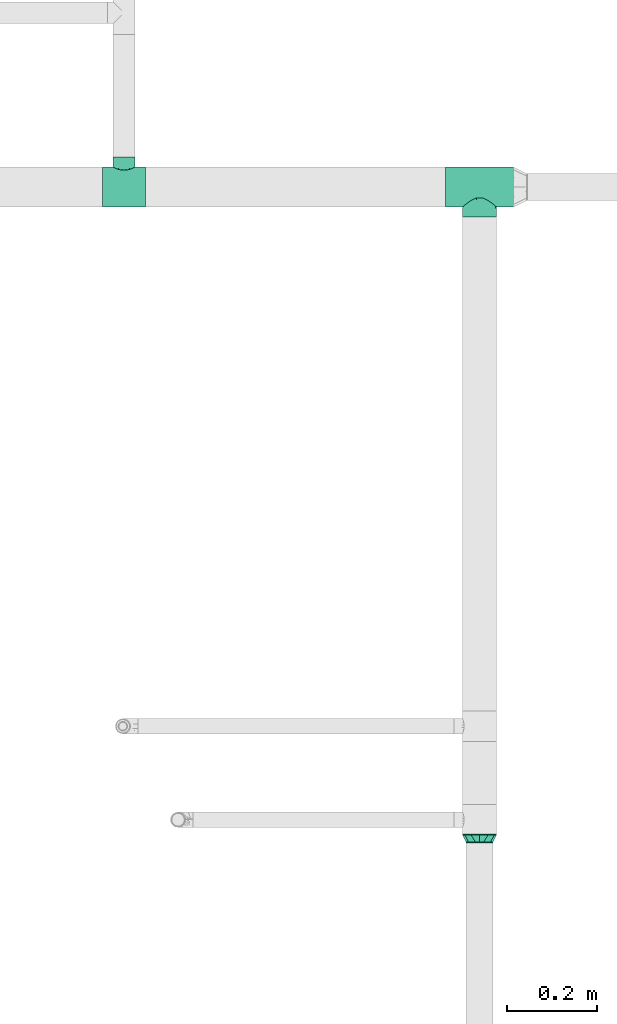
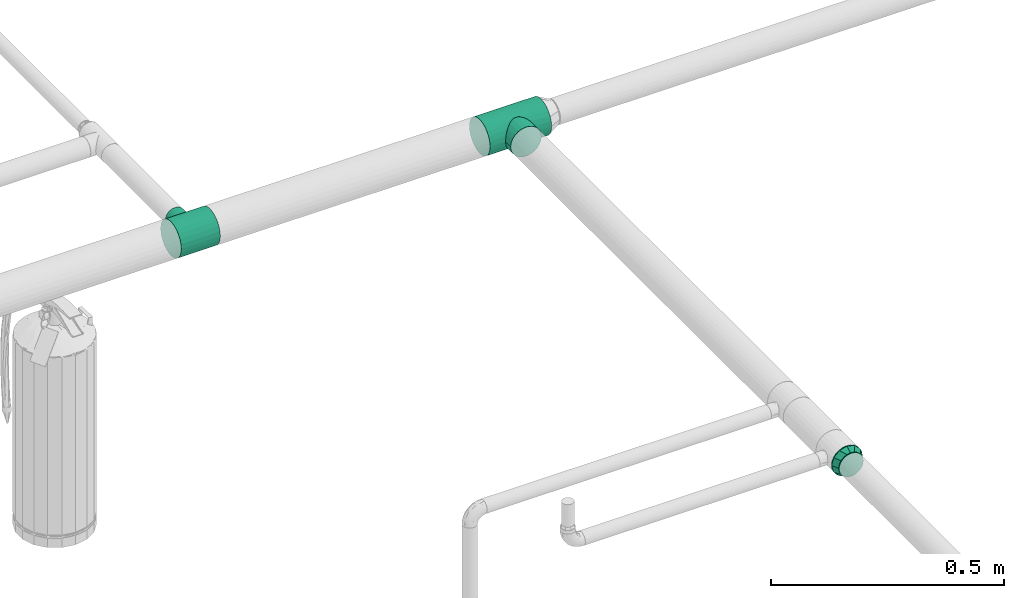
# One storey, part 41 of 43: 3 flow fittings.
"""IFC2X3 building model written with IfcOpenShell, lengths in millimetres."""

from ifc_helpers import new_model, entity, si_unit, converted_unit, derived_unit, direction, frame, origin_with_axes, place, context, subcontext, project, spatial, open_shell, surface_model, source, transform, mapped, type_object, element, save


model = new_model("IFC2X3")

# Units and contexts
model_context = context("Model", 3, precision=0.01, world=frame((0.0, 4.29681676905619e-09, 0.0)), true_north=direction((4.01073788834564e-13, 1.0)))
plan_context = context("Plan", 3, precision=0.01, world=frame((0.0, 4.29681676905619e-09, 0.0)), true_north=direction((4.01073788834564e-13, 1.0)))
body_context = subcontext(model_context, "Body", "Model", "MODEL_VIEW")
ifc_project = project(units=[converted_unit("PLANEANGLEUNIT", "DEGREE", entity("IfcPositiveLengthMeasure", 0.0174532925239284), si_unit("PLANEANGLEUNIT", "RADIAN"), dimensions=[0, 0, 0, 0, 0, 0, 0]), si_unit("AREAUNIT", "SQUARE_METRE"), si_unit("LENGTHUNIT", "METRE", prefix="MILLI"), si_unit("MASSUNIT", "GRAM", prefix="KILO"), si_unit("POWERUNIT", "WATT"), si_unit("PRESSUREUNIT", "PASCAL"), si_unit("FORCEUNIT", "NEWTON", prefix="KILO"), si_unit("ELECTRICVOLTAGEUNIT", "VOLT"), si_unit("ELECTRICCURRENTUNIT", "AMPERE"), si_unit("THERMODYNAMICTEMPERATUREUNIT", "DEGREE_CELSIUS"), si_unit("TIMEUNIT", "SECOND"), si_unit("VOLUMEUNIT", "CUBIC_METRE"), derived_unit("LINEARVELOCITYUNIT", [(si_unit("LENGTHUNIT", "METRE"), 1), (si_unit("TIMEUNIT", "SECOND"), -1)]), derived_unit("VOLUMETRICFLOWRATEUNIT", [(si_unit("VOLUMEUNIT", "CUBIC_METRE"), 1), (si_unit("TIMEUNIT", "SECOND"), -1)]), derived_unit("THERMALTRANSMITTANCEUNIT", [(si_unit("POWERUNIT", "WATT"), 1), (si_unit("THERMODYNAMICTEMPERATUREUNIT", "KELVIN"), -1), (si_unit("AREAUNIT", "SQUARE_METRE"), -1)]), derived_unit("SOUNDPRESSUREUNIT", [(si_unit("PRESSUREUNIT", "PASCAL"), 1)])], contexts=[model_context, plan_context])

# Site, building, storey
site_placement = place(None, frame((0.0, -4.29681676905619e-09, 0.0), z_axis=(0.0, 0.0, 1.0), x_axis=(1.0, 0.0, 0.0)))
site = spatial("IfcSite", under=ifc_project, at=site_placement, CompositionType="ELEMENT")
building_placement = place(site_placement, frame((0.0, 4.29681676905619e-09, 0.0), z_axis=(0.0, 0.0, 1.0), x_axis=(1.0, 0.0, 0.0)))
building = spatial("IfcBuilding", under=site, at=building_placement, Name="mc-building", CompositionType="ELEMENT")
storey_placement = place(building_placement, frame((0.0, 0.0, 210900.0), z_axis=(0.0, 0.0, 1.0), x_axis=(1.0, 0.0, 0.0)))
storey = spatial("IfcBuildingStorey", under=building, at=storey_placement, Name="Nivå F", CompositionType="ELEMENT", Elevation=210900.0)

# Flow fittings
pipe_fitting_type_1 = type_object("IfcPipeFittingType", Name="magi_pipe_fe_tee_centric_90_NOR", PredefinedType="JUNCTION")
shared_shape_1 = source(origin_with_axes(), body_context, "Body", "SurfaceModel", [
    surface_model("IfcShellBasedSurfaceModel", [(-48.4, 11.51745, -42.9837), (-48.4, 0.0, -44.5), (-48.4, 31.46625, -31.46625), (-48.4, 22.25, -38.53813), (-48.4, 38.53813, -22.25), (-48.4, -31.46625, -31.46625), (-48.4, 44.5, 0.0), (-48.4, -22.25, -38.53813), (-48.4, -11.51745, -42.9837), (-48.4, -42.9837, -11.51745), (-48.4, -44.5, 0.0), (-48.4, -38.53813, -22.25), (-48.4, 22.25, 38.53813), (-48.4, 42.9837, -11.51745), (-48.4, 42.9837, 11.51745), (-48.4, 38.53813, 22.25), (-48.4, 31.46625, 31.46625), (-48.4, -22.25, 38.53813), (-48.4, 11.51745, 42.9837), (-48.4, 0.0, 44.5), (-48.4, -31.46625, 31.46625), (-48.4, -38.53813, 22.25), (-48.4, -42.9837, 11.51745), (-48.4, -11.51745, 42.9837), (48.4, 31.46625, -31.46625), (48.4, 0.0, -44.5), (48.4, 11.51745, -42.9837), (48.4, 22.25, -38.53813), (48.4, -31.46625, -31.46625), (48.4, 38.53813, -22.25), (48.4, 44.5, 0.0), (48.4, -11.51745, -42.9837), (48.4, -22.25, -38.53813), (48.4, -38.53813, -22.25), (48.4, -44.5, 0.0), (48.4, -42.9837, -11.51745), (48.4, -22.25, 38.53813), (48.4, 42.9837, -11.51745), (48.4, 31.46625, 31.46625), (48.4, 42.9837, 11.51745), (48.4, 38.53813, 22.25), (48.4, 22.25, 38.53813), (48.4, 0.0, 44.5), (48.4, 11.51745, 42.9837), (48.4, -38.53813, 22.25), (48.4, -31.46625, 31.46625), (48.4, -42.9837, 11.51745), (48.4, -11.51745, 42.9837), (48.4, -43.74185, 5.75872), (22.69411, -43.69934, 8.40342), (24.2, -44.5, 0.0), (18.49124, -41.67177, 15.61134), (4.27905, -37.58883, 23.81868), (48.4, -40.76092, 16.88372), (12.17996, -39.28055, 20.91144), (-12.18212, -39.28122, 20.91019), (-48.4, -40.76092, 16.88372), (-18.4972, -41.67441, 15.60429), (-22.69487, -43.69974, 8.40135), (-48.4, -43.74185, 5.75872), (-24.2, -44.5, 0.0), (-4.28605, -37.58963, 23.81743), (12.17996, -39.28055, -20.91144), (48.4, -40.76092, -16.88372), (18.49124, -41.67177, -15.61134), (4.27905, -37.58883, -23.81868), (-48.4, -43.74185, -5.75872), (-22.69487, -43.69974, -8.40135), (48.4, -43.74185, -5.75872), (22.69411, -43.69934, -8.40342), (-4.28605, -37.58963, -23.81743), (-12.18212, -39.28122, -20.91019), (-18.4972, -41.67441, -15.60429), (-48.4, -40.76092, -16.88372), (0.0, -66.75, -24.2), (6.26342, -66.75, -23.37541), (12.1, -66.75, -20.95781), (12.1, -66.75, 20.95781), (17.11198, -66.75, -17.11198), (20.95781, -66.75, -12.1), (23.37541, -66.75, -6.26342), (-12.1, -66.75, -20.95781), (-20.95781, -66.75, -12.1), (-17.11198, -66.75, -17.11198), (-6.26342, -66.75, -23.37541), (-23.37541, -66.75, -6.26342), (-24.2, -66.75, 0.0), (24.2, -66.75, 0.0), (23.37541, -66.75, 6.26342), (20.95781, -66.75, 12.1), (-23.37541, -66.75, 6.26342), (17.11198, -66.75, 17.11198), (6.26342, -66.75, 23.37541), (-17.11198, -66.75, 17.11198), (-20.95781, -66.75, 12.1), (-12.1, -66.75, 20.95781), (0.0, -66.75, 24.2), (-6.26342, -66.75, 23.37541), (-23.44744, -44.09987, 4.20067), (23.44705, -44.09967, 4.20171), (-8.23409, -38.43542, 22.36381), (-0.0035, -37.58923, 23.81805), (8.22951, -38.43469, 22.36506), (23.44705, -44.09967, -4.20171), (-23.44744, -44.09987, -4.20067), (8.22951, -38.43469, -22.36506), (-0.0035, -37.58923, -23.81805), (-8.23409, -38.43542, -22.36381)], [open_shell([[[0, 1, 2]], [[3, 0, 2]], [[4, 2, 5]], [[1, 5, 2]], [[5, 6, 4]], [[7, 5, 8]], [[5, 1, 8]], [[9, 10, 11]], [[5, 11, 10]], [[10, 12, 5]], [[6, 13, 4]], [[14, 6, 12]], [[15, 14, 16]], [[12, 10, 17]], [[16, 14, 12]], [[18, 12, 19]], [[20, 17, 21]], [[10, 22, 21]], [[23, 19, 17]], [[21, 17, 10]], [[17, 19, 12]], [[6, 5, 12]], [[24, 25, 26]], [[24, 26, 27]], [[28, 24, 29]], [[24, 28, 25]], [[29, 30, 28]], [[31, 28, 32]], [[31, 25, 28]], [[33, 34, 35]], [[34, 33, 28]], [[28, 36, 34]], [[29, 37, 30]], [[38, 30, 39]], [[38, 39, 40]], [[36, 28, 41]], [[41, 30, 38]], [[42, 41, 43]], [[44, 36, 45]], [[44, 46, 34]], [[41, 47, 36]], [[34, 36, 44]], [[42, 47, 41]], [[41, 28, 30]], [[48, 46, 49]], [[50, 34, 48]], [[46, 51, 49]], [[44, 45, 52]], [[50, 48, 49]], [[51, 53, 54]], [[52, 54, 44]], [[45, 20, 52]], [[54, 53, 44]], [[55, 56, 57]], [[58, 59, 60]], [[10, 60, 59]], [[58, 57, 22]], [[55, 61, 21]], [[51, 46, 53]], [[21, 56, 55]], [[21, 61, 20]], [[57, 56, 22]], [[61, 52, 20]], [[58, 22, 59]], [[45, 17, 20]], [[19, 47, 42]], [[23, 36, 47]], [[18, 42, 43]], [[40, 39, 14]], [[16, 41, 38]], [[15, 38, 40]], [[43, 41, 12]], [[6, 39, 30]], [[17, 36, 23]], [[23, 47, 19]], [[18, 19, 42]], [[43, 12, 18]], [[12, 41, 16]], [[15, 16, 38]], [[14, 15, 40]], [[39, 6, 14]], [[36, 17, 45]], [[6, 30, 37]], [[29, 24, 2]], [[13, 37, 29]], [[25, 31, 8]], [[0, 27, 26]], [[1, 26, 25]], [[27, 3, 24]], [[7, 31, 32]], [[2, 4, 29]], [[6, 37, 13]], [[62, 63, 64]], [[13, 29, 4]], [[2, 24, 3]], [[3, 27, 0]], [[1, 0, 26]], [[8, 1, 25]], [[31, 7, 8]], [[32, 5, 7]], [[28, 33, 65]], [[60, 66, 67]], [[62, 65, 33]], [[63, 62, 33]], [[28, 65, 5]], [[34, 50, 68]], [[69, 64, 35]], [[69, 68, 50]], [[69, 35, 68]], [[35, 64, 63]], [[70, 71, 11]], [[72, 9, 73]], [[11, 5, 70]], [[72, 73, 71]], [[70, 5, 65]], [[72, 67, 9]], [[67, 66, 9]], [[66, 60, 10]], [[73, 11, 71]], [[28, 5, 32]], [[74, 75, 76]], [[77, 74, 76]], [[78, 79, 80]], [[78, 80, 76]], [[77, 81, 74]], [[81, 82, 83]], [[81, 84, 74]], [[81, 85, 82]], [[85, 81, 86]], [[81, 77, 86]], [[87, 76, 80]], [[87, 88, 89]], [[87, 89, 77]], [[77, 90, 86]], [[77, 89, 91]], [[90, 77, 92]], [[90, 93, 94]], [[90, 92, 93]], [[95, 96, 97]], [[96, 95, 93]], [[92, 96, 93]], [[77, 76, 87]], [[90, 98, 86]], [[57, 94, 93]], [[99, 87, 50]], [[90, 94, 58]], [[93, 95, 55]], [[98, 60, 86]], [[58, 94, 57]], [[97, 61, 100]], [[55, 57, 93]], [[96, 52, 101]], [[77, 102, 92]], [[100, 55, 95]], [[100, 95, 97]], [[90, 58, 98]], [[54, 77, 91]], [[77, 54, 102]], [[49, 89, 88]], [[91, 89, 51]], [[96, 61, 97]], [[52, 96, 92]], [[102, 52, 92]], [[101, 61, 96]], [[54, 91, 51]], [[51, 89, 49]], [[87, 99, 88]], [[99, 49, 88]], [[80, 103, 87]], [[64, 79, 78]], [[104, 86, 60]], [[80, 79, 69]], [[78, 76, 62]], [[103, 50, 87]], [[69, 79, 64]], [[75, 65, 105]], [[62, 64, 78]], [[74, 70, 106]], [[81, 107, 84]], [[105, 62, 76]], [[107, 81, 71]], [[80, 69, 103]], [[105, 76, 75]], [[83, 71, 81]], [[67, 82, 85]], [[83, 82, 72]], [[104, 67, 85]], [[70, 74, 84]], [[107, 70, 84]], [[106, 65, 74]], [[71, 83, 72]], [[72, 82, 67]], [[86, 104, 85]], [[74, 65, 75]]])]),
])
flow_fitting_1_placement = place(storey_placement, frame((606986.48955, 697236.30413, 2660.0), z_axis=(0.0, 0.0, 1.0), x_axis=(-1.0, 0.0, 0.0)))
element("IfcFlowFitting", 1, at=flow_fitting_1_placement, inside=storey, type_object=pipe_fitting_type_1, Name="magi_pipe_fe_tee_centric_90_NOR", context=body_context, shape_type="MappedRepresentation", body=[
    mapped(shared_shape_1, transform((0.0, 0.0, 0.0), scale=1.0)),
])
shared_shape_2 = source(origin_with_axes(), body_context, "Body", "SurfaceModel", [
    surface_model("IfcShellBasedSurfaceModel", [(-76.2, 11.51745, -42.9837), (-76.2, 0.0, -44.5), (-76.2, 31.46625, -31.46625), (-76.2, 22.25, -38.53813), (-76.2, 38.53813, -22.25), (-76.2, 22.25, 38.53813), (-76.2, -31.46625, -31.46625), (-76.2, -44.5, 0.0), (-76.2, -22.25, -38.53813), (-76.2, -11.51745, -42.9837), (-76.2, -42.9837, -11.51745), (-76.2, -38.53813, -22.25), (-76.2, 42.9837, -11.51745), (-76.2, 42.9837, 11.51745), (-76.2, 44.5, 0.0), (-76.2, 38.53813, 22.25), (-76.2, 31.46625, 31.46625), (-76.2, -22.25, 38.53813), (-76.2, 11.51745, 42.9837), (-76.2, 0.0, 44.5), (-76.2, -31.46625, 31.46625), (-76.2, -38.53813, 22.25), (-76.2, -42.9837, 11.51745), (-76.2, -11.51745, 42.9837), (76.2, 31.46625, -31.46625), (76.2, 0.0, -44.5), (76.2, 11.51745, -42.9837), (76.2, 22.25, -38.53813), (76.2, -31.46625, -31.46625), (76.2, 38.53813, -22.25), (76.2, 44.5, 0.0), (76.2, -11.51745, -42.9837), (76.2, -22.25, -38.53813), (76.2, -38.53813, -22.25), (76.2, -44.5, 0.0), (76.2, -42.9837, -11.51745), (76.2, -22.25, 38.53813), (76.2, 42.9837, -11.51745), (76.2, 31.46625, 31.46625), (76.2, 42.9837, 11.51745), (76.2, 38.53813, 22.25), (76.2, 22.25, 38.53813), (76.2, 0.0, 44.5), (76.2, 11.51745, 42.9837), (76.2, -38.53813, 22.25), (76.2, -31.46625, 31.46625), (76.2, -42.9837, 11.51745), (76.2, -11.51745, 42.9837), (36.81168, -43.40744, 6.8866), (76.2, -43.74185, 5.75872), (35.52336, -42.31488, 13.7732), (76.2, -40.76092, 16.88372), (32.13743, -39.56456, 19.38621), (38.1, -44.5, 0.0), (19.15496, -29.92579, 32.93474), (76.2, -35.00219, 26.85813), (-76.2, -40.76092, 16.88372), (-35.52746, -42.31832, 13.76261), (-32.13988, -39.5666, 19.38046), (28.7515, -36.81425, 24.99922), (7.00805, -24.03649, 37.44993), (-19.15174, -29.92373, 32.93662), (-76.2, -35.00219, 26.85813), (-28.7523, -36.81487, 24.9983), (-36.81373, -43.40916, 6.8813), (-76.2, -43.74185, 5.75872), (-38.1, -44.5, 0.0), (-7.03094, -24.04317, 37.44564), (-35.52746, -42.31832, -13.76261), (-36.81373, -43.40916, -6.8813), (7.00805, -24.03649, -37.44993), (76.2, -40.76092, -16.88372), (35.52336, -42.31488, -13.7732), (32.13743, -39.56456, -19.38621), (36.81168, -43.40744, -6.8866), (76.2, -43.74185, -5.75872), (-7.03094, -24.04317, -37.44564), (76.2, -35.00219, -26.85813), (19.15496, -29.92579, -32.93474), (28.7515, -36.81425, -24.99922), (-76.2, -40.76092, -16.88372), (-76.2, -43.74185, -5.75872), (-19.15174, -29.92373, -32.93662), (-28.7523, -36.81487, -24.9983), (-76.2, -35.00219, -26.85813), (-32.13988, -39.5666, -19.38046), (0.0, -66.75, -38.1), (9.86101, -66.75, -36.80177), (19.05, -66.75, -32.99557), (26.94077, -66.75, -26.94077), (32.99557, -66.75, -19.05), (36.80177, -66.75, -9.86101), (0.0, -66.75, 38.1), (-26.94077, -66.75, -26.94077), (-9.86101, -66.75, -36.80177), (-19.05, -66.75, -32.99557), (-36.80177, -66.75, -9.86101), (-32.99557, -66.75, -19.05), (-32.99557, -66.75, 19.05), (-36.80177, -66.75, 9.86101), (-38.1, -66.75, 0.0), (19.05, -66.75, 32.99557), (36.80177, -66.75, 9.86101), (32.99557, -66.75, 19.05), (26.94077, -66.75, 26.94077), (9.86101, -66.75, 36.80177), (-26.94077, -66.75, 26.94077), (-19.05, -66.75, 32.99557), (-9.86101, -66.75, 36.80177), (38.1, -66.75, 0.0), (-0.01144, -24.03983, 37.44778), (-0.01144, -24.03983, -37.44778)], [open_shell([[[0, 1, 2]], [[3, 0, 2]], [[4, 2, 5]], [[6, 2, 1]], [[2, 7, 5]], [[8, 6, 9]], [[6, 1, 9]], [[10, 7, 11]], [[6, 11, 7]], [[6, 7, 2]], [[12, 4, 5]], [[13, 14, 5]], [[15, 13, 16]], [[5, 7, 17]], [[16, 13, 5]], [[18, 5, 19]], [[20, 17, 21]], [[7, 22, 21]], [[17, 7, 21]], [[17, 23, 5]], [[23, 19, 5]], [[14, 12, 5]], [[24, 25, 26]], [[24, 26, 27]], [[28, 24, 29]], [[24, 28, 25]], [[29, 30, 28]], [[31, 28, 32]], [[31, 25, 28]], [[33, 34, 35]], [[34, 33, 28]], [[28, 36, 34]], [[29, 37, 30]], [[38, 30, 39]], [[38, 39, 40]], [[36, 28, 41]], [[41, 30, 38]], [[42, 41, 43]], [[44, 36, 45]], [[44, 46, 34]], [[36, 42, 47]], [[34, 36, 44]], [[41, 42, 36]], [[41, 28, 30]], [[46, 48, 49]], [[50, 51, 52]], [[34, 49, 53]], [[44, 52, 51]], [[45, 54, 55]], [[56, 57, 58]], [[59, 55, 54]], [[36, 60, 54]], [[44, 59, 52]], [[54, 45, 36]], [[50, 46, 51]], [[61, 62, 63]], [[64, 57, 22]], [[59, 44, 55]], [[64, 22, 65]], [[66, 64, 65]], [[57, 56, 22]], [[53, 49, 48]], [[20, 61, 17]], [[66, 65, 7]], [[21, 63, 62]], [[56, 58, 21]], [[62, 61, 20]], [[61, 67, 17]], [[46, 50, 48]], [[21, 58, 63]], [[60, 23, 67]], [[19, 47, 42]], [[60, 47, 23]], [[18, 42, 43]], [[40, 39, 13]], [[16, 41, 38]], [[15, 38, 40]], [[43, 41, 5]], [[14, 39, 30]], [[67, 23, 17]], [[23, 47, 19]], [[18, 19, 42]], [[43, 5, 18]], [[5, 41, 16]], [[15, 16, 38]], [[13, 15, 40]], [[39, 14, 13]], [[60, 36, 47]], [[37, 29, 4]], [[10, 68, 69]], [[29, 24, 2]], [[30, 37, 14]], [[25, 31, 9]], [[0, 27, 26]], [[1, 26, 25]], [[24, 27, 3]], [[31, 70, 9]], [[71, 72, 73]], [[4, 12, 37]], [[74, 35, 75]], [[29, 2, 4]], [[12, 14, 37]], [[24, 3, 2]], [[3, 27, 0]], [[1, 0, 26]], [[9, 1, 25]], [[9, 76, 8]], [[31, 32, 70]], [[77, 78, 28]], [[79, 77, 33]], [[68, 10, 80]], [[70, 32, 78]], [[33, 73, 79]], [[78, 32, 28]], [[53, 74, 75]], [[35, 72, 71]], [[72, 35, 74]], [[53, 75, 34]], [[73, 33, 71]], [[66, 81, 69]], [[82, 6, 8]], [[83, 11, 84]], [[82, 84, 6]], [[84, 82, 83]], [[78, 77, 79]], [[82, 8, 76]], [[7, 81, 66]], [[11, 85, 80]], [[11, 83, 85]], [[69, 81, 10]], [[80, 85, 68]], [[70, 76, 9]], [[86, 87, 88]], [[86, 88, 89]], [[89, 90, 91]], [[89, 91, 86]], [[92, 93, 86]], [[94, 93, 95]], [[94, 86, 93]], [[93, 96, 97]], [[93, 98, 96]], [[96, 99, 100]], [[101, 86, 91]], [[102, 103, 91]], [[91, 103, 101]], [[101, 92, 86]], [[101, 103, 104]], [[92, 101, 105]], [[98, 92, 106]], [[99, 96, 98]], [[107, 92, 108]], [[92, 107, 106]], [[92, 98, 93]], [[102, 91, 109]], [[99, 64, 100]], [[48, 109, 53]], [[48, 50, 102]], [[99, 57, 64]], [[57, 99, 98]], [[63, 98, 106]], [[64, 66, 100]], [[57, 98, 63]], [[107, 108, 61]], [[61, 63, 106]], [[61, 108, 67]], [[61, 106, 107]], [[92, 60, 110]], [[54, 105, 101]], [[104, 54, 101]], [[50, 103, 102]], [[104, 103, 59]], [[92, 67, 108]], [[60, 92, 105]], [[105, 54, 60]], [[110, 67, 92]], [[54, 104, 59]], [[59, 103, 50]], [[109, 48, 102]], [[91, 74, 109]], [[79, 90, 89]], [[91, 72, 74]], [[91, 90, 72]], [[89, 88, 78]], [[74, 53, 109]], [[72, 90, 79]], [[78, 87, 70]], [[78, 79, 89]], [[86, 76, 111]], [[78, 88, 87]], [[69, 68, 96]], [[82, 94, 95]], [[93, 82, 95]], [[68, 97, 96]], [[93, 97, 83]], [[86, 70, 87]], [[76, 86, 94]], [[94, 82, 76]], [[111, 70, 86]], [[82, 93, 83]], [[83, 97, 68]], [[100, 69, 96]], [[69, 100, 66]]])]),
])
flow_fitting_2_placement = place(storey_placement, frame((607779.57252, 697236.30413, 2660.0), z_axis=(0.0, 0.0, -1.0), x_axis=(-1.0, 0.0, 0.0)))
element("IfcFlowFitting", 2, at=flow_fitting_2_placement, inside=storey, type_object=pipe_fitting_type_1, Name="magi_pipe_fe_tee_centric_90_NOR", context=body_context, shape_type="MappedRepresentation", body=[
    mapped(shared_shape_2, transform((0.0, 0.0, 0.0), scale=1.0)),
])
pipe_fitting_type_2 = type_object("IfcPipeFittingType", Name="magi_pipe_fe_reducer_centric_short_NOR", PredefinedType="TRANSITION")
shared_shape_3 = source(origin_with_axes(), body_context, "Body", "SurfaceModel", [
    surface_model("IfcShellBasedSurfaceModel", [(-2.0, 9.86101, 36.80177), (-2.0, -38.1, 0.0), (-2.0, 0.0, 38.1), (-2.0, 26.94077, 26.94077), (-2.0, 19.05, 32.99557), (-2.0, 32.99557, 19.05), (-2.0, 36.80177, 9.86101), (-2.0, -9.86101, 36.80177), (-2.0, -26.94077, 26.94077), (-2.0, -19.05, 32.99557), (-2.0, -32.99557, 19.05), (-2.0, -36.80177, 9.86101), (-2.0, 36.80177, -9.86101), (-2.0, -32.99557, -19.05), (-2.0, 9.86101, -36.80177), (-2.0, 32.99557, -19.05), (-2.0, 26.94077, -26.94077), (-2.0, 19.05, -32.99557), (-2.0, -26.94077, -26.94077), (-2.0, -36.80177, -9.86101), (-2.0, -19.05, -32.99557), (-2.0, 0.0, -38.1), (-2.0, -9.86101, -36.80177), (-2.0, 38.1, 0.0), (0.0, 9.86101, -36.80177), (0.0, 19.05, -32.99557), (0.0, 26.94077, -26.94077), (0.0, 36.80177, -9.86101), (0.0, -26.94077, -26.94077), (0.0, 32.99557, -19.05), (0.0, -38.1, 0.0), (0.0, 0.0, -38.1), (0.0, -19.05, -32.99557), (0.0, -9.86101, -36.80177), (0.0, -32.99557, -19.05), (0.0, -36.80177, -9.86101), (0.0, 38.1, 0.0), (0.0, 36.80177, 9.86101), (0.0, 32.99557, 19.05), (0.0, 26.94077, 26.94077), (0.0, 0.0, 38.1), (0.0, 9.86101, 36.80177), (0.0, 19.05, 32.99557), (0.0, -9.86101, 36.80177), (0.0, -32.99557, 19.05), (0.0, -36.80177, 9.86101), (0.0, -26.94077, 26.94077), (0.0, -19.05, 32.99557), (15.8, 9.33231, 28.72191), (15.8, 30.2, 0.0), (15.8, 24.43231, 17.75111), (15.8, -24.43231, 17.75111), (15.8, -9.33231, -28.72191), (15.8, 9.33231, -28.72191), (15.8, 24.43231, -17.75111), (15.8, -24.43231, -17.75111), (15.8, -27.31616, -8.87556), (15.8, -16.88231, -23.23651), (0.0, -26.02278, -26.02278), (15.8, 16.88231, -23.23651), (0.0, -9.525, -35.54778), (15.8, 0.0, -28.72191), (0.0, 9.525, -35.54778), (0.0, 26.02278, -26.02278), (15.8, 27.31616, -8.87556), (15.8, 27.31616, 8.87556), (15.8, 16.88231, 23.23651), (0.0, 26.02278, 26.02278), (15.8, -16.88231, 23.23651), (15.8, -9.33231, 28.72191), (0.0, 9.525, 35.54778), (15.8, 0.0, 28.72191), (0.0, -9.525, 35.54778), (0.0, -26.02278, 26.02278), (15.8, -27.31616, 8.87556), (17.8, 7.81634, -29.17096), (17.8, 15.1, -26.15397), (17.8, 21.35462, -21.35462), (17.8, 30.2, 0.0), (17.8, 26.15397, -15.1), (17.8, 29.17096, -7.81634), (17.8, -15.1, -26.15397), (17.8, -29.17096, 7.81634), (17.8, 0.0, -30.2), (17.8, -7.81634, -29.17096), (17.8, -21.35462, -21.35462), (17.8, -29.17096, -7.81634), (17.8, -26.15397, -15.1), (17.8, 29.17096, 7.81634), (17.8, 26.15397, 15.1), (17.8, 21.35462, 21.35462), (17.8, -21.35462, 21.35462), (17.8, 15.1, 26.15397), (17.8, 7.81634, 29.17096), (17.8, 0.0, 30.2), (17.8, -26.15397, 15.1), (17.8, -30.2, 0.0), (17.8, -7.81634, 29.17096), (17.8, -15.1, 26.15397), (15.8, 0.0, 30.2), (15.8, 7.81634, 29.17096), (15.8, 15.1, 26.15397), (15.8, 21.35462, 21.35462), (15.8, 26.15397, 15.1), (15.8, 29.17096, 7.81634), (15.8, -29.17096, 7.81634), (15.8, -7.81634, 29.17096), (15.8, -21.35462, 21.35462), (15.8, -15.1, 26.15397), (15.8, -26.15397, 15.1), (15.8, -30.2, 0.0), (15.8, 29.17096, -7.81634), (15.8, 26.15397, -15.1), (15.8, 21.35462, -21.35462), (15.8, 15.1, -26.15397), (15.8, 7.81634, -29.17096), (15.8, -15.1, -26.15397), (15.8, -29.17096, -7.81634), (15.8, -21.35462, -21.35462), (15.8, -26.15397, -15.1), (15.8, 0.0, -30.2), (15.8, -7.81634, -29.17096), (0.0, 35.64327, -9.16863), (0.0, -35.64327, -9.16863), (0.0, -35.64327, 9.16863), (0.0, 35.64327, 9.16863)], [open_shell([[[0, 1, 2]], [[3, 0, 4]], [[3, 5, 6]], [[3, 6, 0]], [[1, 0, 6]], [[7, 8, 9]], [[8, 7, 10]], [[10, 1, 11]], [[1, 10, 7]], [[7, 2, 1]], [[6, 12, 1]], [[13, 1, 12]], [[14, 12, 15]], [[16, 17, 14]], [[16, 14, 15]], [[13, 12, 14]], [[14, 18, 13]], [[19, 1, 13]], [[20, 21, 22]], [[20, 18, 14]], [[20, 14, 21]], [[6, 23, 12]], [[24, 25, 26]], [[24, 26, 27]], [[24, 27, 28]], [[27, 26, 29]], [[28, 27, 30]], [[31, 32, 33]], [[31, 24, 32]], [[28, 32, 24]], [[28, 30, 34]], [[34, 30, 35]], [[27, 36, 37]], [[37, 38, 39]], [[37, 39, 40]], [[41, 40, 39]], [[41, 39, 42]], [[37, 40, 43]], [[30, 44, 45]], [[44, 30, 43]], [[46, 43, 47]], [[43, 46, 44]], [[30, 37, 43]], [[37, 30, 27]], [[19, 35, 1]], [[13, 34, 19]], [[32, 18, 20]], [[13, 18, 28]], [[33, 20, 22]], [[19, 34, 35]], [[35, 30, 1]], [[33, 32, 20]], [[28, 18, 32]], [[28, 34, 13]], [[31, 33, 22]], [[22, 21, 31]], [[14, 24, 21]], [[17, 25, 14]], [[29, 16, 15]], [[17, 16, 26]], [[27, 15, 12]], [[17, 26, 25]], [[25, 24, 14]], [[36, 27, 12]], [[29, 15, 27]], [[29, 26, 16]], [[23, 36, 12]], [[21, 24, 31]], [[6, 37, 23]], [[5, 38, 6]], [[42, 3, 4]], [[5, 3, 39]], [[41, 4, 0]], [[6, 38, 37]], [[37, 36, 23]], [[41, 42, 4]], [[39, 3, 42]], [[39, 38, 5]], [[40, 41, 0]], [[0, 2, 40]], [[7, 43, 2]], [[9, 47, 7]], [[44, 8, 10]], [[9, 8, 46]], [[45, 10, 11]], [[9, 46, 47]], [[47, 43, 7]], [[30, 45, 11]], [[44, 10, 45]], [[44, 46, 8]], [[1, 30, 11]], [[2, 43, 40]], [[29, 25, 38]], [[30, 32, 34]], [[30, 31, 32]], [[36, 29, 38]], [[48, 49, 50]], [[51, 52, 49]], [[49, 52, 53]], [[53, 54, 49]], [[55, 56, 34]], [[32, 52, 57]], [[57, 55, 58]], [[59, 53, 25]], [[52, 60, 61]], [[62, 25, 53]], [[63, 54, 59]], [[29, 64, 54]], [[61, 62, 53]], [[52, 32, 60]], [[50, 65, 38]], [[42, 48, 66]], [[66, 50, 67]], [[68, 69, 47]], [[48, 70, 71]], [[72, 47, 69]], [[73, 51, 68]], [[44, 74, 51]], [[71, 72, 69]], [[48, 42, 70]], [[75, 76, 77]], [[75, 77, 78]], [[79, 80, 78]], [[79, 78, 77]], [[81, 75, 82]], [[83, 81, 84]], [[83, 75, 81]], [[85, 86, 87]], [[86, 85, 81]], [[81, 82, 86]], [[82, 75, 78]], [[88, 89, 90]], [[78, 90, 91]], [[92, 93, 94]], [[91, 90, 92]], [[91, 92, 94]], [[82, 91, 95]], [[96, 86, 82]], [[91, 97, 98]], [[82, 78, 91]], [[97, 91, 94]], [[88, 90, 78]], [[99, 100, 101]], [[99, 101, 102]], [[102, 103, 104]], [[99, 102, 105]], [[49, 105, 102]], [[106, 107, 108]], [[106, 99, 107]], [[107, 105, 109]], [[99, 105, 107]], [[105, 49, 110]], [[49, 102, 104]], [[49, 111, 112]], [[49, 112, 113]], [[113, 114, 115]], [[113, 115, 49]], [[115, 116, 110]], [[117, 118, 119]], [[118, 117, 116]], [[116, 120, 121]], [[117, 110, 116]], [[115, 120, 116]], [[110, 49, 115]], [[117, 86, 110]], [[119, 87, 117]], [[81, 118, 116]], [[119, 118, 85]], [[84, 116, 121]], [[117, 87, 86]], [[86, 96, 110]], [[84, 81, 116]], [[85, 118, 81]], [[85, 87, 119]], [[83, 84, 121]], [[121, 120, 83]], [[115, 75, 120]], [[114, 76, 115]], [[79, 113, 112]], [[114, 113, 77]], [[80, 112, 111]], [[114, 77, 76]], [[76, 75, 115]], [[78, 80, 111]], [[79, 112, 80]], [[79, 77, 113]], [[49, 78, 111]], [[120, 75, 83]], [[104, 88, 49]], [[103, 89, 104]], [[92, 102, 101]], [[103, 102, 90]], [[93, 101, 100]], [[104, 89, 88]], [[88, 78, 49]], [[93, 92, 101]], [[90, 102, 92]], [[90, 89, 103]], [[94, 93, 100]], [[100, 99, 94]], [[106, 97, 99]], [[108, 98, 106]], [[95, 107, 109]], [[108, 107, 91]], [[82, 109, 105]], [[108, 91, 98]], [[98, 97, 106]], [[96, 82, 105]], [[95, 109, 82]], [[95, 91, 107]], [[110, 96, 105]], [[99, 97, 94]], [[69, 51, 48]], [[49, 48, 51]], [[52, 51, 55]], [[51, 110, 55]], [[40, 42, 38]], [[40, 38, 44]], [[40, 44, 47]], [[44, 38, 30]], [[38, 25, 30]], [[25, 31, 30]], [[49, 122, 36]], [[110, 30, 123]], [[122, 49, 64]], [[59, 25, 63]], [[29, 54, 63]], [[29, 122, 64]], [[34, 56, 123]], [[123, 56, 110]], [[55, 34, 58]], [[62, 61, 31]], [[32, 57, 58]], [[61, 60, 31]], [[110, 124, 30]], [[49, 36, 125]], [[124, 110, 74]], [[68, 47, 73]], [[44, 51, 73]], [[44, 124, 74]], [[38, 65, 125]], [[125, 65, 49]], [[50, 38, 67]], [[72, 71, 40]], [[42, 66, 67]], [[71, 70, 40]]])]),
])
flow_fitting_3_placement = place(storey_placement, frame((607779.57252, 695791.42914, 2660.0), z_axis=(0.0, 0.0, 1.0), x_axis=(0.0, -1.0, 0.0)))
element("IfcFlowFitting", 3, at=flow_fitting_3_placement, inside=storey, type_object=pipe_fitting_type_2, Name="magi_pipe_fe_reducer_centric_short_NOR", context=body_context, shape_type="MappedRepresentation", body=[
    mapped(shared_shape_3, transform((0.0, 0.0, 0.0), scale=1.0)),
])

save(model, "model.ifc")
